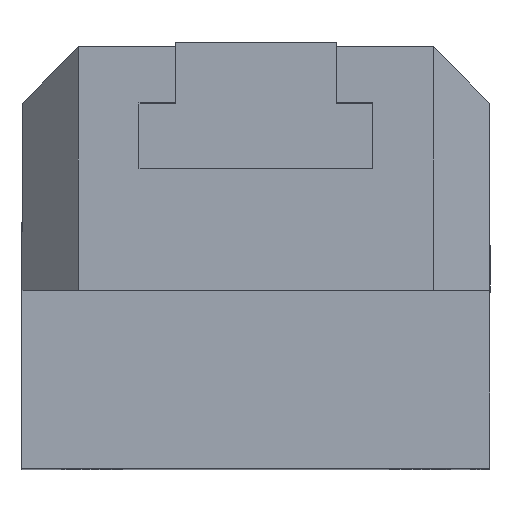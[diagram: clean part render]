
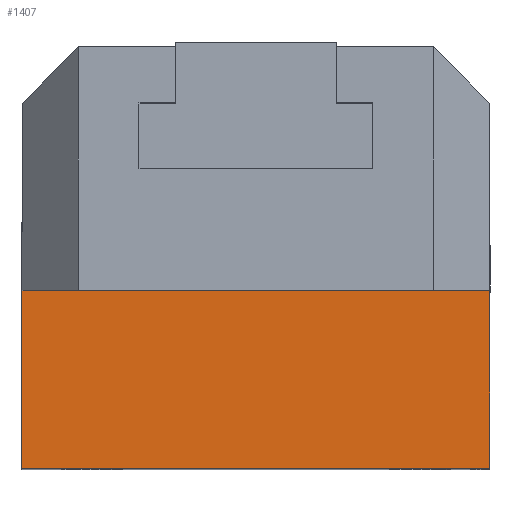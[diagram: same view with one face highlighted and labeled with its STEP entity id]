
A CAD part, top view. The second image highlights one B-rep face of the part: STEP entity #1407.
In plain terms, the highlighted planar face has unit normal (0, 0, 1).
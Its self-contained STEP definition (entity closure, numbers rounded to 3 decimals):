
#703 = VERTEX_POINT ( 'NONE', #3487 ) ;
#709 = EDGE_CURVE ( 'NONE', #703, #1036, #3347, .T. ) ;
#808 = EDGE_CURVE ( 'NONE', #879, #1036, #3699, .T. ) ;
#879 = VERTEX_POINT ( 'NONE', #3778 ) ;
#927 = VERTEX_POINT ( 'NONE', #3930 ) ;
#934 = EDGE_CURVE ( 'NONE', #927, #703, #4008, .T. ) ;
#1036 = VERTEX_POINT ( 'NONE', #3797 ) ;
#1148 = ORIENTED_EDGE ( 'NONE', *, *, #934, .T. ) ;
#1159 = ORIENTED_EDGE ( 'NONE', *, *, #808, .F. ) ;
#1184 = ORIENTED_EDGE ( 'NONE', *, *, #709, .T. ) ;
#1403 = EDGE_LOOP ( 'NONE', ( #1410, #1148, #1184, #1159 ) ) ;
#1406 = EDGE_CURVE ( 'NONE', #879, #927, #4571, .T. ) ;
#1407 = ADVANCED_FACE ( 'NONE', ( #4611 ), #4590, .F. ) ;
#1410 = ORIENTED_EDGE ( 'NONE', *, *, #1406, .T. ) ;
#3343 = DIRECTION ( 'NONE',  ( 1., 0., 0. ) ) ;
#3344 = VECTOR ( 'NONE', #3343, 1000. ) ;
#3346 = CARTESIAN_POINT ( 'NONE',  ( 50., 0., 77. ) ) ;
#3347 = LINE ( 'NONE', #3346, #3344 ) ;
#3487 = CARTESIAN_POINT ( 'NONE',  ( -50., 0., 77. ) ) ;
#3555 = DIRECTION ( 'NONE',  ( 0., -1., 0. ) ) ;
#3556 = VECTOR ( 'NONE', #3555, 1000. ) ;
#3557 = CARTESIAN_POINT ( 'NONE',  ( 50., 197.703, 77. ) ) ;
#3699 = LINE ( 'NONE', #3557, #3556 ) ;
#3778 = CARTESIAN_POINT ( 'NONE',  ( 50., 38., 77. ) ) ;
#3797 = CARTESIAN_POINT ( 'NONE',  ( 50., 0., 77. ) ) ;
#3930 = CARTESIAN_POINT ( 'NONE',  ( -50., 38., 77. ) ) ;
#3995 = DIRECTION ( 'NONE',  ( 0., -1., 0. ) ) ;
#3996 = VECTOR ( 'NONE', #3995, 1000. ) ;
#3997 = CARTESIAN_POINT ( 'NONE',  ( -50., 197.703, 77. ) ) ;
#4008 = LINE ( 'NONE', #3997, #3996 ) ;
#4568 = AXIS2_PLACEMENT_3D ( 'NONE', #4610, #4604, #4603 ) ;
#4569 = VECTOR ( 'NONE', #4609, 1000. ) ;
#4570 = CARTESIAN_POINT ( 'NONE',  ( 50., 38., 77. ) ) ;
#4571 = LINE ( 'NONE', #4570, #4569 ) ;
#4590 = PLANE ( 'NONE',  #4568 ) ;
#4603 = DIRECTION ( 'NONE',  ( -1., 0., 0. ) ) ;
#4604 = DIRECTION ( 'NONE',  ( 0., 0., -1. ) ) ;
#4609 = DIRECTION ( 'NONE',  ( -1., 0., 0. ) ) ;
#4610 = CARTESIAN_POINT ( 'NONE',  ( 50., 197.703, 77. ) ) ;
#4611 = FACE_OUTER_BOUND ( 'NONE', #1403, .T. ) ;
